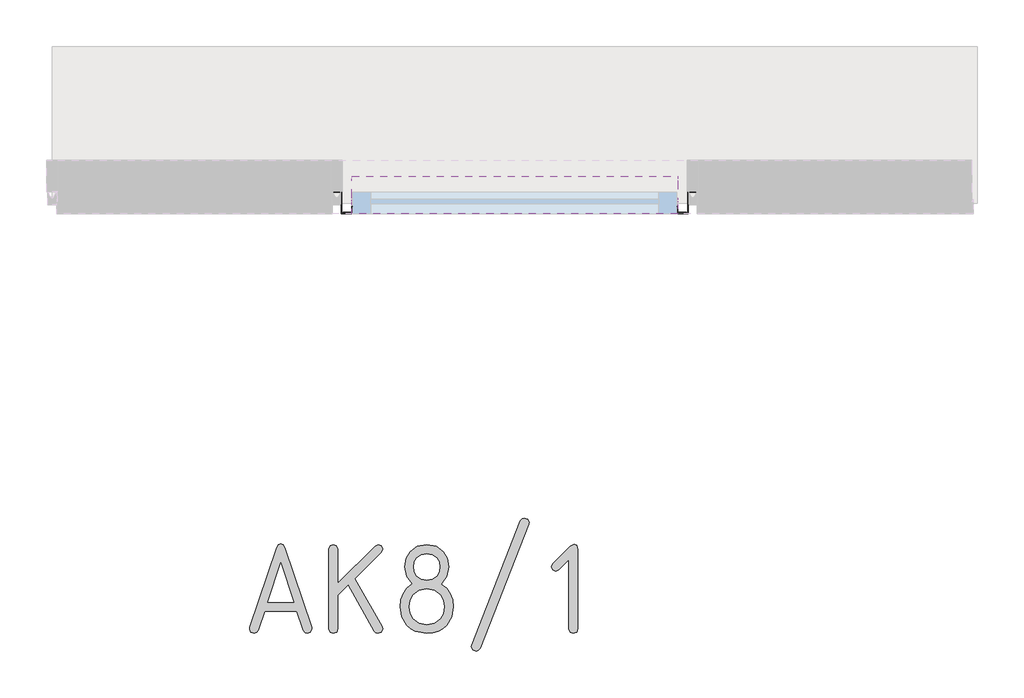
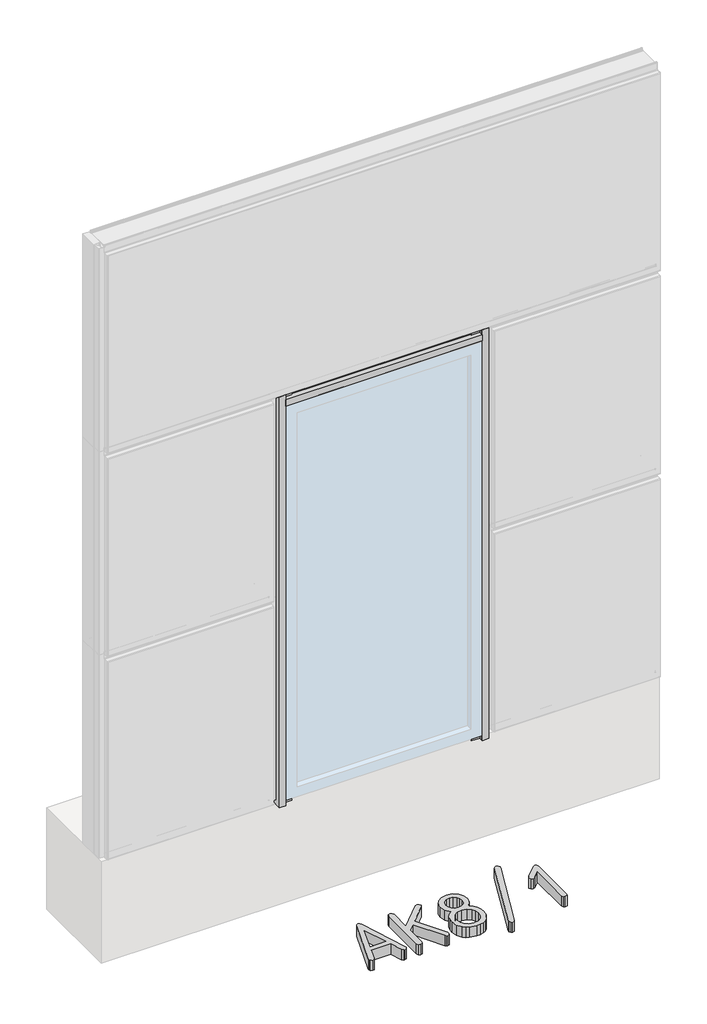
# One storey, part 6 of 37: 4 proxies.
"""IFC4 building model written with IfcOpenShell, lengths in millimetres."""

from ifc_helpers import new_model, si_unit, origin, origin_with_axes, place, context, project, spatial, polyline, outline, extrude, transform, mapped, element, save
from components import generic_models_076ac74d, generic_models_7983885f, generic_models_43c3eadf

model = new_model("IFC4")

# Units and contexts
model_context = context("Model", 3, world=origin())
ifc_project = project(units=[si_unit("LENGTHUNIT", "METRE", prefix="MILLI")], contexts=[model_context])

# Site, building, storey
site = spatial("IfcSite", under=ifc_project)
building = spatial("IfcBuilding", under=site)
storey = spatial("IfcBuildingStorey", under=building, Name="Этаж 01", Elevation=0.0)

# Proxies
placement = place(None, origin())
element("IfcBuildingElementProxy", 1, Name="250 мм ГОСТ 2.304", ObjectType="250 мм ГОСТ 2.304", at=placement, inside=storey, context=model_context, shape_type="SweptSolid", body=[
    extrude(outline(polyline([(46420.8154984, -42426.1300608), (46402.9821438, -42480.0681368), (46398.7740979, -42486.3567408), (46391.2809603, -42488.4529422), (46382.5207159, -42485.1678505), (46378.5160328, -42476.8143318), (46379.6423499, -42472.0587706), (46454.3547197, -42247.9216611), (46459.2667139, -42239.9905113), (46465.9933301, -42237.3467947), (46473.0953853, -42239.9905113), (46477.6319404, -42247.9216611), (46552.7197493, -42472.0587706), (46553.4706274, -42476.8143318), (46549.4659443, -42485.1678505), (46540.7056999, -42488.4529422), (46535.2618338, -42487.7646372), (46529.0670895, -42480.0681368), (46511.1711617, -42426.1300608), (46420.8154984, -42426.1300608)]), holes=[polyline([(46502.7863564, -42400.9756448), (46465.9933301, -42290.9720048), (46429.2003037, -42400.9756448), (46502.7863564, -42400.9756448)])]), origin_with_axes(), (0.0, 0.0, 1.0), 50.0),
    extrude(outline(polyline([(46626.4935215, -42347.4130078), (46731.0532954, -42243.5415389), (46739.8135397, -42239.5368558), (46748.7615036, -42243.385106), (46752.5784672, -42252.3017833), (46748.5737841, -42261.0620276), (46674.6122924, -42335.0235194), (46750.7638452, -42470.2441485), (46752.5784672, -42476.8143318), (46748.5737841, -42485.7310091), (46739.4381007, -42489.2038202), (46733.3528595, -42487.4674147), (46728.8632343, -42482.2581979), (46656.0280597, -42352.1685691), (46626.4935215, -42381.3276682), (46626.4935215, -42476.4388927), (46623.0207104, -42485.7310091), (46614.1040331, -42488.8283812), (46605.1560692, -42485.5432896), (46601.3391055, -42476.4388927), (46601.3391055, -42252.3017833), (46605.1560692, -42243.1973865), (46614.1040331, -42239.9122948), (46622.6765579, -42243.1973865), (46626.4935215, -42252.3017833), (46626.4935215, -42347.4130078)])), origin_with_axes(), (0.0, 0.0, 1.0), 50.0),
    extrude(outline(polyline([(46917.8342199, -42350.353947), (46932.2729798, -42362.0082007), (46942.8009163, -42377.322985), (46949.23031, -42395.0937665), (46951.3734412, -42414.1160114), (46946.727383, -42442.0705769), (46932.7892085, -42465.4885873), (46921.4673748, -42475.6997471), (46908.2761676, -42482.9934327), (46893.2155867, -42487.3696441), (46876.2856323, -42488.8283812), (46844.5766764, -42483.0872925), (46831.4558639, -42475.9109316), (46820.1574952, -42465.8640263), (46806.2193207, -42442.3521562), (46801.5732625, -42414.1160114), (46803.7163937, -42394.8591171), (46810.1457874, -42377.1352655), (46820.7675837, -42361.867411), (46835.4879229, -42349.978508), (46819.8133428, -42328.6410556), (46814.33819, -42301.8597371), (46818.2490134, -42278.4730133), (46829.9814835, -42259.2474056), (46849.9423261, -42244.4644932), (46876.2856323, -42239.5368558), (46902.7071551, -42244.4644932), (46922.902647, -42259.2474056), (46934.682047, -42278.4730133), (46938.6085137, -42301.8597371), (46933.3210805, -42328.8287751), (46917.8342199, -42350.353947)]), holes=[polyline([(46876.2856323, -42339.4036416), (46892.0540722, -42336.493989), (46904.3184143, -42327.7650312), (46911.1701769, -42316.188994), (46913.4540977, -42301.8597371), (46911.1701769, -42287.8589894), (46904.3184143, -42276.3924553), (46892.0540722, -42267.6165676), (46876.2856323, -42264.6912717), (46860.7831285, -42267.6165676), (46848.5657162, -42276.3924553), (46841.7608835, -42287.8589894), (46839.492606, -42301.8597371), (46841.7608835, -42316.188994), (46848.5657162, -42327.7650312), (46860.7831285, -42336.493989), (46876.2856323, -42339.4036416)]), polyline([(46876.2856323, -42364.1826185), (46855.1358995, -42368.1090852), (46839.1171669, -42379.8884852), (46829.8250506, -42395.1719829), (46826.7276785, -42414.1160114), (46829.8250506, -42432.8879636), (46839.1171669, -42448.4061108), (46855.1358995, -42460.1385809), (46876.2856323, -42464.0494043), (46897.6856579, -42460.1385809), (46913.8295368, -42448.4061108), (46923.1216531, -42433.0756831), (46926.2190252, -42414.1160114), (46923.2155129, -42395.3597025), (46914.2049758, -42379.8884852), (46897.6230847, -42368.1090852), (46876.2856323, -42364.1826185)])]), origin_with_axes(), (0.0, 0.0, 1.0), 50.0),
    extrude(outline(polyline([(47163.2462085, -42181.9695356), (47026.2109574, -42530.7524078), (47021.4866827, -42536.571713), (47014.947786, -42538.7617741), (47005.8121026, -42535.2889629), (47001.8074195, -42526.3722856), (47002.5582976, -42521.6167244), (47139.5935487, -42172.8964254), (47144.3178234, -42167.014547), (47150.8567201, -42164.824486), (47159.9924035, -42168.4850166), (47163.9970866, -42177.2139744), (47163.2462085, -42181.9695356)])), origin_with_axes(), (0.0, 0.0, 1.0), 50.0),
    extrude(outline(polyline([(47300.7820451, -42476.4388927), (47297.3092339, -42485.7310091), (47288.3925566, -42488.8283812), (47279.8200318, -42485.5432896), (47276.0030682, -42476.4388927), (47276.0030682, -42282.2117605), (47247.2194081, -42310.6199815), (47238.8346028, -42314.6246646), (47229.8866389, -42310.807701), (47226.0696753, -42301.8597371), (47230.0743584, -42293.1620659), (47279.6323123, -42243.5415389), (47290.5826177, -42238.0976728), (47297.8723925, -42241.7582035), (47300.7820451, -42252.3017833), (47300.7820451, -42476.4388927)])), origin_with_axes(), (0.0, 0.0, 1.0), 50.0),
])
generic_models_shape = generic_models_076ac74d(model_context)
element("IfcBuildingElementProxy", 2, Name="АК8_1 верх Обрамление витражного проема : АК8_1 верх Обрамление витражного проема", ObjectType="АК8_1 верх Обрамление витражного проема : АК8_1 верх Обрамление витражного проема", at=placement, inside=storey, context=model_context, shape_type="MappedRepresentation", body=[
    mapped(generic_models_shape, transform((46666.2069431, -41310.1316508, 2025.4122117), x_axis=(1.0, 0.0, 0.0), y_axis=(0.0, 0.0, 1.0), z_axis=(0.0, -1.0, 0.0))),
])
generic_models_2_shape = generic_models_7983885f(model_context)
element("IfcBuildingElementProxy", 3, Name="АК8_1 бок Обрамление витражного проема : АК8_1 бок Обрамление витражного проема", ObjectType="АК8_1 бок Обрамление витражного проема : АК8_1 бок Обрамление витражного проема", at=placement, inside=storey, context=model_context, shape_type="MappedRepresentation", body=[
    mapped(generic_models_2_shape, transform((47623.7069431, -41285.1316508, 2022.0045775), x_axis=(0.0, 0.0, -1.0), y_axis=(1.0, 0.0, 0.0), z_axis=(0.0, -1.0, 0.0))),
])
generic_models_3_shape = generic_models_43c3eadf(model_context)
element("IfcBuildingElementProxy", 4, Name="АК8_1 бок Обрамление витражного проема : АК8_1 бок Обрамление витражного проема", ObjectType="АК8_1 бок Обрамление витражного проема : АК8_1 бок Обрамление витражного проема", at=placement, inside=storey, context=model_context, shape_type="MappedRepresentation", body=[
    mapped(generic_models_3_shape, transform((46623.7069431, -41285.1316508, 2021.9741576), x_axis=(0.0, 0.0, -1.0), y_axis=(1.0, 0.0, 0.0), z_axis=(0.0, -1.0, 0.0))),
])

save(model, "model.ifc")
